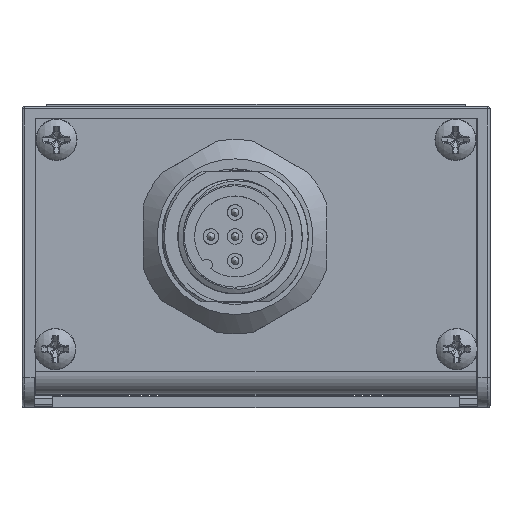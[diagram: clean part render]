
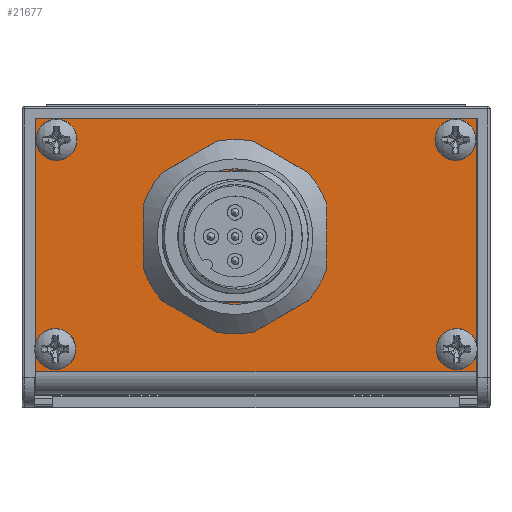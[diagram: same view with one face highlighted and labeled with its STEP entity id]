
A CAD part, top view. The second image highlights one B-rep face of the part: STEP entity #21677.
In plain terms, the highlighted planar face has unit normal (0, 0, 1).
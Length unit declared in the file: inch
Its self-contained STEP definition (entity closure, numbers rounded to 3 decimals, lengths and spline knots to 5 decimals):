
#956 = CARTESIAN_POINT ( 'NONE',  ( -0.815, -0.4075, 0. ) ) ;
#2842 = ORIENTED_EDGE ( 'NONE', *, *, #144186, .F. ) ;
#3903 = DIRECTION ( 'NONE',  ( 1., 0., 0. ) ) ;
#4104 = LINE ( 'NONE', #97498, #130320 ) ;
#4351 = LINE ( 'NONE', #16304, #29092 ) ;
#4579 = VERTEX_POINT ( 'NONE', #127467 ) ;
#7769 = EDGE_CURVE ( 'NONE', #10001, #104773, #117548, .T. ) ;
#8451 = CIRCLE ( 'NONE', #41497, 0.05325 ) ;
#8687 = DIRECTION ( 'NONE',  ( 0., 0., 1. ) ) ;
#8713 = FACE_BOUND ( 'NONE', #109262, .T. ) ;
#10001 = VERTEX_POINT ( 'NONE', #94440 ) ;
#10235 = CARTESIAN_POINT ( 'NONE',  ( 0.815, -0.4075, 0. ) ) ;
#11053 = FACE_BOUND ( 'NONE', #149092, .T. ) ;
#14184 = CIRCLE ( 'NONE', #103383, 0.05325 ) ;
#16304 = CARTESIAN_POINT ( 'NONE',  ( 0.895, 0.52875, 0. ) ) ;
#17014 = ORIENTED_EDGE ( 'NONE', *, *, #7769, .F. ) ;
#17778 = DIRECTION ( 'NONE',  ( -1., -0.026, 0. ) ) ;
#19391 = EDGE_LOOP ( 'NONE', ( #58553 ) ) ;
#21677 = ADVANCED_FACE ( 'NONE', ( #11053, #8713, #155464, #144294, #34940, #154694 ), #70102, .T. ) ;
#26395 = DIRECTION ( 'NONE',  ( 1., 0.026, 0. ) ) ;
#29092 = VECTOR ( 'NONE', #53011, 39.37008 ) ;
#29531 = LINE ( 'NONE', #114196, #46621 ) ;
#32045 = VERTEX_POINT ( 'NONE', #84770 ) ;
#32804 = CARTESIAN_POINT ( 'NONE',  ( -0.21595, -0.22227, 0. ) ) ;
#34940 = FACE_BOUND ( 'NONE', #78208, .T. ) ;
#38832 = CARTESIAN_POINT ( 'NONE',  ( -0.895, -0.49875, 0. ) ) ;
#40836 = CIRCLE ( 'NONE', #107157, 0.05325 ) ;
#41497 = AXIS2_PLACEMENT_3D ( 'NONE', #10235, #8687, #129952 ) ;
#43622 = CARTESIAN_POINT ( 'NONE',  ( -0.76175, -0.4075, 0. ) ) ;
#46621 = VECTOR ( 'NONE', #53502, 39.37008 ) ;
#46840 = ORIENTED_EDGE ( 'NONE', *, *, #116728, .T. ) ;
#48598 = EDGE_CURVE ( 'NONE', #125107, #125107, #92112, .T. ) ;
#49622 = LINE ( 'NONE', #98295, #151508 ) ;
#51662 = CARTESIAN_POINT ( 'NONE',  ( 0.86325, 0.4425, 0. ) ) ;
#52957 = AXIS2_PLACEMENT_3D ( 'NONE', #120385, #145080, #83654 ) ;
#53011 = DIRECTION ( 'NONE',  ( 0., 1., 0. ) ) ;
#53502 = DIRECTION ( 'NONE',  ( 0., -1., 0. ) ) ;
#56086 = CARTESIAN_POINT ( 'NONE',  ( 0.04595, 0.31977, 0. ) ) ;
#57955 = VERTEX_POINT ( 'NONE', #43622 ) ;
#58265 = EDGE_CURVE ( 'NONE', #58577, #113504, #152293, .T. ) ;
#58553 = ORIENTED_EDGE ( 'NONE', *, *, #123776, .F. ) ;
#58577 = VERTEX_POINT ( 'NONE', #38832 ) ;
#60399 = EDGE_CURVE ( 'NONE', #118519, #32045, #4104, .T. ) ;
#65297 = EDGE_CURVE ( 'NONE', #4579, #4579, #8451, .T. ) ;
#69213 = ORIENTED_EDGE ( 'NONE', *, *, #65297, .F. ) ;
#69267 = EDGE_CURVE ( 'NONE', #116322, #116322, #14184, .T. ) ;
#70102 = PLANE ( 'NONE',  #52957 ) ;
#71278 = VECTOR ( 'NONE', #126032, 39.37008 ) ;
#77284 = CARTESIAN_POINT ( 'NONE',  ( -0.085, 0.04875, 0. ) ) ;
#78208 = EDGE_LOOP ( 'NONE', ( #113598, #17014, #102806, #2842 ) ) ;
#78699 = EDGE_CURVE ( 'NONE', #113504, #118519, #4351, .T. ) ;
#78744 = CARTESIAN_POINT ( 'NONE',  ( 0.895, -0.49875, 0. ) ) ;
#81399 = VERTEX_POINT ( 'NONE', #94689 ) ;
#82907 = EDGE_LOOP ( 'NONE', ( #46840, #139301, #113451, #149721 ) ) ;
#83654 = DIRECTION ( 'NONE',  ( 1., 0., 0. ) ) ;
#84770 = CARTESIAN_POINT ( 'NONE',  ( -0.895, 0.52875, 0. ) ) ;
#89160 = CARTESIAN_POINT ( 'NONE',  ( -0.75675, 0.4425, 0. ) ) ;
#90766 = CARTESIAN_POINT ( 'NONE',  ( 0.81, 0.4425, 0. ) ) ;
#92112 = CIRCLE ( 'NONE', #97226, 0.05325 ) ;
#94440 = CARTESIAN_POINT ( 'NONE',  ( 0.04595, 0.31977, 0. ) ) ;
#94689 = CARTESIAN_POINT ( 'NONE',  ( 0.05996, -0.21505, 0. ) ) ;
#96500 = VECTOR ( 'NONE', #17778, 39.37008 ) ;
#96967 = AXIS2_PLACEMENT_3D ( 'NONE', #77284, #125979, #153043 ) ;
#97226 = AXIS2_PLACEMENT_3D ( 'NONE', #114818, #139529, #3903 ) ;
#97498 = CARTESIAN_POINT ( 'NONE',  ( -0.895, 0.52875, 0. ) ) ;
#98295 = CARTESIAN_POINT ( 'NONE',  ( -0.21595, -0.22227, 0. ) ) ;
#99860 = DIRECTION ( 'NONE',  ( -1., 0., 0. ) ) ;
#100057 = ORIENTED_EDGE ( 'NONE', *, *, #48598, .F. ) ;
#101440 = DIRECTION ( 'NONE',  ( 1., 0., 0. ) ) ;
#102806 = ORIENTED_EDGE ( 'NONE', *, *, #125640, .F. ) ;
#103383 = AXIS2_PLACEMENT_3D ( 'NONE', #90766, #153008, #129090 ) ;
#104613 = CIRCLE ( 'NONE', #96967, 0.301 ) ;
#104773 = VERTEX_POINT ( 'NONE', #125676 ) ;
#107157 = AXIS2_PLACEMENT_3D ( 'NONE', #956, #147752, #101440 ) ;
#109262 = EDGE_LOOP ( 'NONE', ( #148945 ) ) ;
#113451 = ORIENTED_EDGE ( 'NONE', *, *, #78699, .T. ) ;
#113504 = VERTEX_POINT ( 'NONE', #78744 ) ;
#113598 = ORIENTED_EDGE ( 'NONE', *, *, #150376, .F. ) ;
#113772 = VERTEX_POINT ( 'NONE', #32804 ) ;
#114196 = CARTESIAN_POINT ( 'NONE',  ( -0.895, 0.52875, 0. ) ) ;
#114818 = CARTESIAN_POINT ( 'NONE',  ( -0.81, 0.4425, 0. ) ) ;
#116322 = VERTEX_POINT ( 'NONE', #51662 ) ;
#116728 = EDGE_CURVE ( 'NONE', #32045, #58577, #29531, .T. ) ;
#117548 = LINE ( 'NONE', #56086, #96500 ) ;
#117679 = CARTESIAN_POINT ( 'NONE',  ( -0.085, 0.04875, 0. ) ) ;
#118519 = VERTEX_POINT ( 'NONE', #142923 ) ;
#120385 = CARTESIAN_POINT ( 'NONE',  ( 0., 0., 0. ) ) ;
#121833 = EDGE_LOOP ( 'NONE', ( #69213 ) ) ;
#123776 = EDGE_CURVE ( 'NONE', #57955, #57955, #40836, .T. ) ;
#125107 = VERTEX_POINT ( 'NONE', #89160 ) ;
#125640 = EDGE_CURVE ( 'NONE', #81399, #10001, #148375, .T. ) ;
#125676 = CARTESIAN_POINT ( 'NONE',  ( -0.22996, 0.31255, 0. ) ) ;
#125979 = DIRECTION ( 'NONE',  ( 0., 0., 1. ) ) ;
#126032 = DIRECTION ( 'NONE',  ( 1., 0., 0. ) ) ;
#127467 = CARTESIAN_POINT ( 'NONE',  ( 0.86825, -0.4075, 0. ) ) ;
#129090 = DIRECTION ( 'NONE',  ( 1., 0., 0. ) ) ;
#129952 = DIRECTION ( 'NONE',  ( 1., 0., 0. ) ) ;
#130320 = VECTOR ( 'NONE', #99860, 39.37008 ) ;
#130396 = DIRECTION ( 'NONE',  ( 1., 0., 0. ) ) ;
#138767 = CARTESIAN_POINT ( 'NONE',  ( -0.895, -0.49875, 0. ) ) ;
#139237 = DIRECTION ( 'NONE',  ( 0., 0., 1. ) ) ;
#139301 = ORIENTED_EDGE ( 'NONE', *, *, #58265, .T. ) ;
#139529 = DIRECTION ( 'NONE',  ( 0., 0., 1. ) ) ;
#142923 = CARTESIAN_POINT ( 'NONE',  ( 0.895, 0.52875, 0. ) ) ;
#143259 = AXIS2_PLACEMENT_3D ( 'NONE', #117679, #139237, #130396 ) ;
#144186 = EDGE_CURVE ( 'NONE', #113772, #81399, #49622, .T. ) ;
#144294 = FACE_BOUND ( 'NONE', #121833, .T. ) ;
#145080 = DIRECTION ( 'NONE',  ( 0., 0., 1. ) ) ;
#147752 = DIRECTION ( 'NONE',  ( 0., 0., 1. ) ) ;
#148375 = CIRCLE ( 'NONE', #143259, 0.301 ) ;
#148945 = ORIENTED_EDGE ( 'NONE', *, *, #69267, .F. ) ;
#149092 = EDGE_LOOP ( 'NONE', ( #100057 ) ) ;
#149721 = ORIENTED_EDGE ( 'NONE', *, *, #60399, .T. ) ;
#150376 = EDGE_CURVE ( 'NONE', #104773, #113772, #104613, .T. ) ;
#151508 = VECTOR ( 'NONE', #26395, 39.37008 ) ;
#152293 = LINE ( 'NONE', #138767, #71278 ) ;
#153008 = DIRECTION ( 'NONE',  ( 0., 0., 1. ) ) ;
#153043 = DIRECTION ( 'NONE',  ( 1., 0., 0. ) ) ;
#154694 = FACE_OUTER_BOUND ( 'NONE', #82907, .T. ) ;
#155464 = FACE_BOUND ( 'NONE', #19391, .T. ) ;
